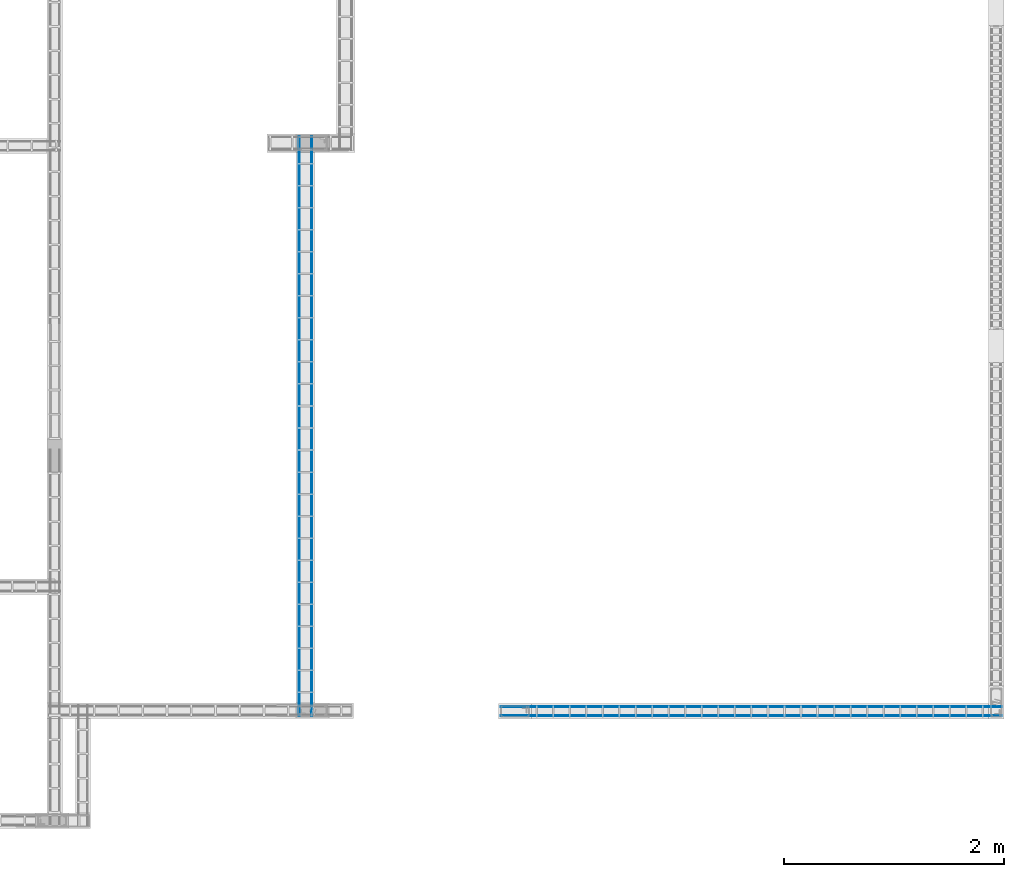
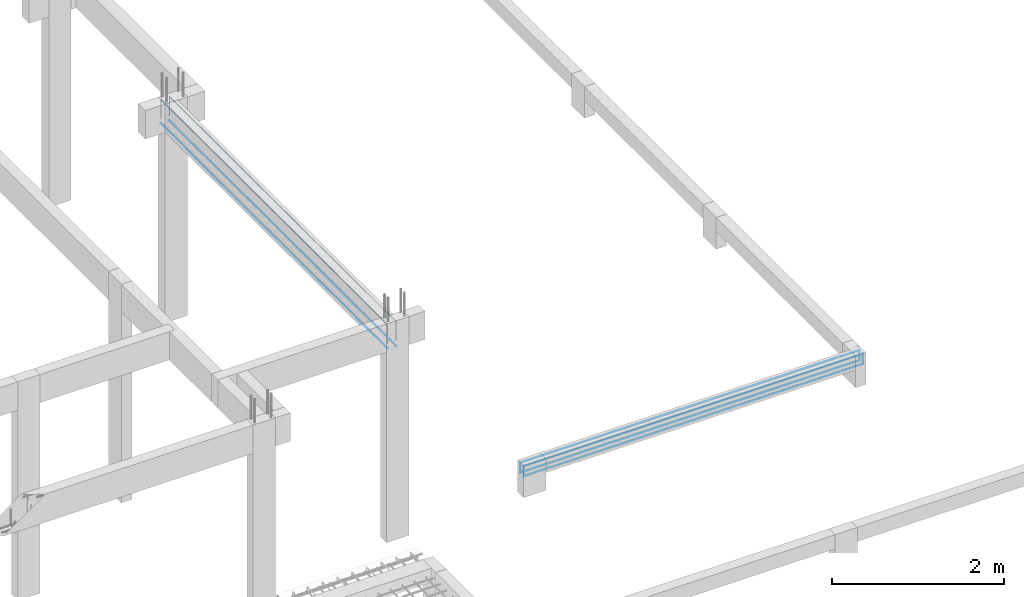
# One storey, part 108 of 236: 8 reinforcing bars.
"""IFC4 building model written with IfcOpenShell, lengths in centimetres."""

from ifc_helpers import new_model, entity, si_unit, derived_unit, frame, origin_with_axes, place, context, project, spatial, element, save


model = new_model("IFC4")

# Units and contexts
model_context = context("Model", 3, precision=1e-05, world=origin_with_axes(), identifier="Body")
ifc_project = project(units=[si_unit("LENGTHUNIT", "METRE", prefix="CENTI"), si_unit("VOLUMEUNIT", "CUBIC_METRE"), si_unit("AREAUNIT", "SQUARE_METRE"), si_unit("POWERUNIT", "WATT"), si_unit("LUMINOUSFLUXUNIT", "LUMEN"), si_unit("ELECTRICCURRENTUNIT", "AMPERE"), si_unit("PRESSUREUNIT", "PASCAL", prefix="KILO"), si_unit("MASSUNIT", "GRAM", prefix="KILO"), si_unit("PLANEANGLEUNIT", "RADIAN"), derived_unit("VOLUMETRICFLOWRATEUNIT", [(si_unit("LENGTHUNIT", "METRE"), 3), (si_unit("TIMEUNIT", "SECOND"), -1)])], contexts=[model_context])

# Site, building, storey
site_placement = place(None, frame((-4000.0, 0.0, 0.0), z_axis=(0.0, 0.0, 1.0), x_axis=(1.0, 0.0, 0.0)))
site = spatial("IfcSite", under=ifc_project, at=site_placement, Name="PADRÃO")
building_placement = place(site_placement, frame((0.0, 0.0, -14.0)))
building = spatial("IfcBuilding", under=site, at=building_placement, Name="CRECHE PRÉ-ESCOLA TIPO 2")
placement_1 = place(building_placement, origin_with_axes())
placement_2 = place(placement_1, frame((0.0, 0.0, 30.0), z_axis=(0.0, 0.0, 1.0), x_axis=(1.0, 0.0, 0.0)))
storey_placement = place(placement_2, frame((0.0, 0.0, 310.0), z_axis=(0.0, 0.0, 1.0), x_axis=(1.0, 0.0, 0.0)))
storey = spatial("IfcBuildingStorey", under=building, at=storey_placement, Name="TERREO", CompositionType="ELEMENT", Elevation=326.0)

# Reinforcing bars
for number, where, z_axis, x_axis, name in (
    (1, (3360.4, 773.295, -36.7), (0.0, 0.0, 1.0), (1.0, 0.0, 0.0), "V312 - Longitudinal inferior"),
    (2, (3371.6, 773.295, -36.7), (0.0, 0.0, 1.0), (1.0, 0.0, 0.0), "V312 - Longitudinal inferior"),
):
    element("IfcReinforcingBar", number, at=place(storey_placement, frame(where, z_axis=z_axis, x_axis=x_axis)), inside=storey, Name=name, BarLength=0.0, CrossSectionArea=5.0265482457e-05, NominalDiameter=0.8, PredefinedType="MAIN", context=model_context, shape_type="AdvancedSweptSolid", body=[
        entity("IfcSweptDiskSolid", entity("IfcCompositeCurve", [entity("IfcCompositeCurveSegment", "CONTINUOUS", True, entity("IfcPolyline", [entity("IfcCartesianPoint", [0.0, -263.285, -0.4]), entity("IfcCartesianPoint", [0.0, 263.285, -0.4])]))], False), 0.4),
    ])
for number, where, z_axis, x_axis, name in (
    (3, (3371.6, 773.295, -2.49624973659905), (0.0, 0.0, 1.0), (1.0, 0.0, 0.0), "V312 - Longitudinal superior"),
    (4, (3360.4, 773.295, -2.49624973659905), (0.0, 0.0, 1.0), (1.0, 0.0, 0.0), "V312 - Longitudinal superior"),
):
    element("IfcReinforcingBar", number, at=place(storey_placement, frame(where, z_axis=z_axis, x_axis=x_axis)), inside=storey, Name=name, BarLength=0.0, CrossSectionArea=5.0265482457e-05, NominalDiameter=0.8, PredefinedType="MAIN", context=model_context, shape_type="AdvancedSweptSolid", body=[
        entity("IfcSweptDiskSolid", entity("IfcCompositeCurve", [entity("IfcCompositeCurveSegment", "CONTINUOUS", True, entity("IfcPolyline", [entity("IfcCartesianPoint", [0.0, -262.885, -27.089590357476]), entity("IfcCartesianPoint", [0.0, -262.885, -0.403750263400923])])), entity("IfcCompositeCurveSegment", "CONTINUOUS", True, entity("IfcPolyline", [entity("IfcCartesianPoint", [0.0, -262.885, -0.403750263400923]), entity("IfcCartesianPoint", [0.0, 262.885, -0.403750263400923])])), entity("IfcCompositeCurveSegment", "CONTINUOUS", True, entity("IfcPolyline", [entity("IfcCartesianPoint", [0.0, 262.885, -0.403750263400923]), entity("IfcCartesianPoint", [0.0, 262.885, -27.089590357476])]))], False), 0.4),
    ])
for number, where, z_axis, x_axis, name in (
    (5, (3770.5, 518.62, -281.7), (0.0, 0.0, 1.0), (1.0, 0.0, 0.0), "V328 - Longitudinal inferior"),
    (6, (3770.5, 510.42, -281.7), (0.0, 0.0, 1.0), (1.0, 0.0, 0.0), "V328 - Longitudinal inferior"),
):
    element("IfcReinforcingBar", number, at=place(storey_placement, frame(where, z_axis=z_axis, x_axis=x_axis)), inside=storey, Name=name, BarLength=0.0, CrossSectionArea=5.0265482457e-05, NominalDiameter=0.8, PredefinedType="MAIN", context=model_context, shape_type="AdvancedSweptSolid", body=[
        entity("IfcSweptDiskSolid", entity("IfcCompositeCurve", [entity("IfcCompositeCurveSegment", "CONTINUOUS", True, entity("IfcPolyline", [entity("IfcCartesianPoint", [-227.5, 0.0, -0.4]), entity("IfcCartesianPoint", [227.5, 0.0, -0.4])]))], False), 0.4),
    ])
for number, where, z_axis, x_axis, name in (
    (7, (3770.5, 510.42, -267.496249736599), (0.0, 0.0, 1.0), (1.0, 0.0, 0.0), "V328 - Longitudinal superior"),
    (8, (3770.5, 518.62, -267.496249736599), (0.0, 0.0, 1.0), (1.0, 0.0, 0.0), "V328 - Longitudinal superior"),
):
    element("IfcReinforcingBar", number, at=place(storey_placement, frame(where, z_axis=z_axis, x_axis=x_axis)), inside=storey, Name=name, BarLength=0.0, CrossSectionArea=5.0265482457e-05, NominalDiameter=0.8, PredefinedType="MAIN", context=model_context, shape_type="AdvancedSweptSolid", body=[
        entity("IfcSweptDiskSolid", entity("IfcCompositeCurve", [entity("IfcCompositeCurveSegment", "CONTINUOUS", True, entity("IfcPolyline", [entity("IfcCartesianPoint", [-227.1, 0.0, -11.5526065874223]), entity("IfcCartesianPoint", [-227.1, 0.0, -0.403750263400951])])), entity("IfcCompositeCurveSegment", "CONTINUOUS", True, entity("IfcPolyline", [entity("IfcCartesianPoint", [-227.1, 0.0, -0.403750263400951]), entity("IfcCartesianPoint", [227.1, 0.0, -0.403750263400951])])), entity("IfcCompositeCurveSegment", "CONTINUOUS", True, entity("IfcPolyline", [entity("IfcCartesianPoint", [227.1, 0.0, -0.403750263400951]), entity("IfcCartesianPoint", [227.1, 0.0, -11.5526065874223])]))], False), 0.4),
    ])

save(model, "model.ifc")
